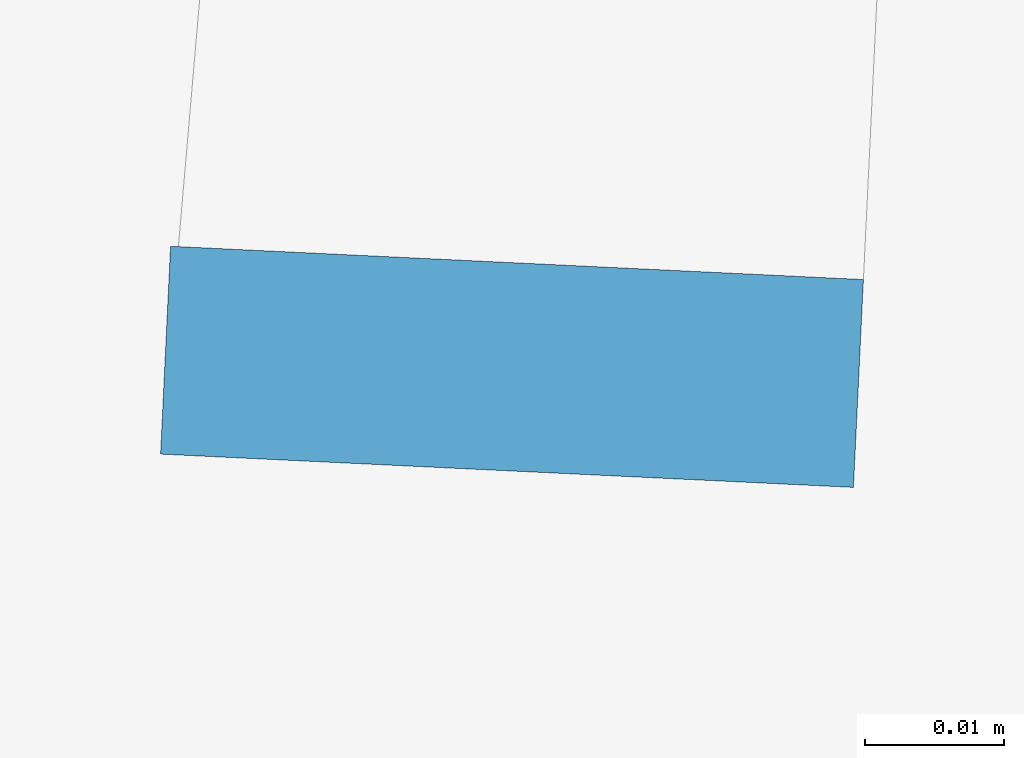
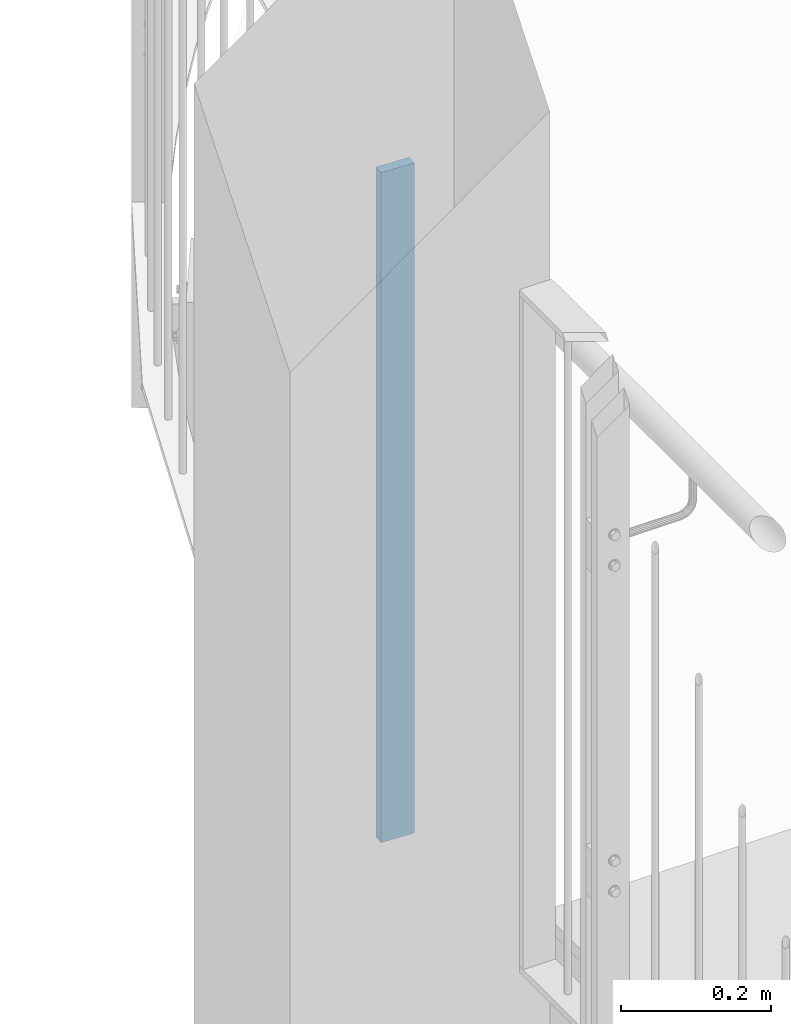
# One storey, part 58 of 296: 1 column.
"""IFC2X3 building model written with IfcOpenShell, lengths in millimetres."""

from ifc_helpers import new_model, entity, si_unit, converted_unit, frame, origin, origin_with_axes, origin_2d, place, context, project, spatial, rectangle, extrude, material, element, save


model = new_model("IFC2X3")

# Units and contexts
model_context = context("Model", 3, precision=1e-09, world=origin_with_axes())
ifc_project = project(units=[si_unit("LENGTHUNIT", "METRE", prefix="MILLI"), si_unit("AREAUNIT", "SQUARE_METRE"), si_unit("VOLUMEUNIT", "CUBIC_METRE"), converted_unit("PLANEANGLEUNIT", "DEGREE", entity("IfcPlaneAngleMeasure", 0.01745329), si_unit("PLANEANGLEUNIT", "RADIAN"), dimensions=[0, 0, 0, 0, 0, 0, 0])], contexts=[model_context])

# Site, building, storey
site_placement = place(None, origin_with_axes())
site = spatial("IfcSite", under=ifc_project, at=site_placement, Name="TZD-S?d | Treppenhausgel?nder", CompositionType="ELEMENT")
building_placement = place(site_placement, origin_with_axes())
building = spatial("IfcBuilding", under=site, at=building_placement, Name="Struktur 1", CompositionType="ELEMENT")
storey_placement = place(building_placement, origin_with_axes())
storey = spatial("IfcBuildingStorey", under=building, at=storey_placement, Name="Default Storey", CompositionType="ELEMENT", Elevation=0.0)

# Column
ifc_material = material(Name="S235JR")
column_placement = place(None, frame((-61.196839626, 50.945967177, 12815.0), z_axis=(0.0, 0.0, -1.0), x_axis=(-0.047978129, -0.998848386, 0.0)))
element("IfcColumn", 1, at=column_placement, inside=storey, material=ifc_material, Name="-", ObjectType="-", context=model_context, shape_type="SweptSolid", body=[
    extrude(rectangle(XDim=15.0, YDim=50.0, at=origin_2d()), origin(), (0.0, 0.0, 1.0), 1090.0),
])

save(model, "model.ifc")
